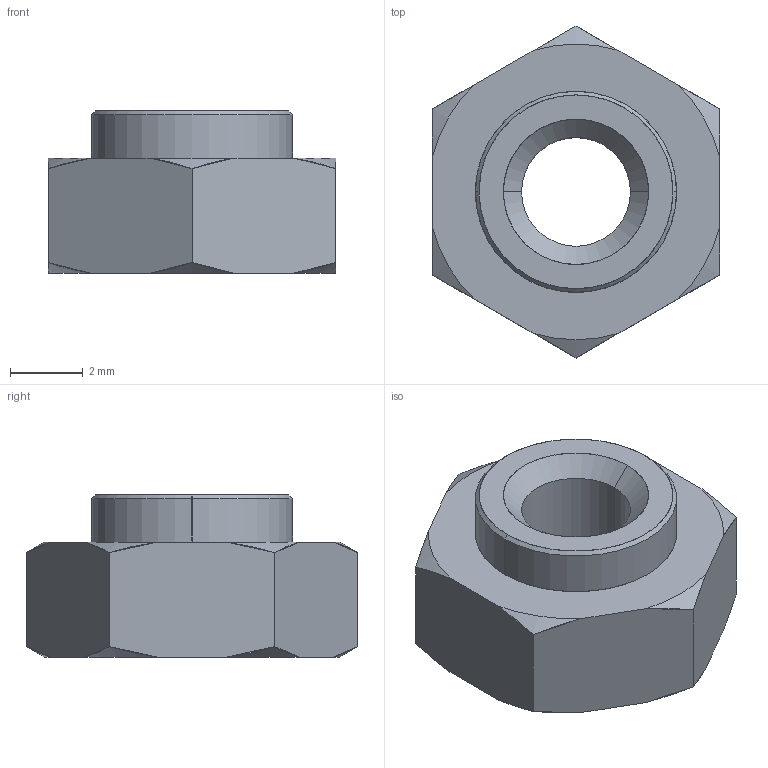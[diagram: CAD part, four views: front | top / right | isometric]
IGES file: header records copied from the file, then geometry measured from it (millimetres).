
Start section: SolidWorks IGES file using analytic representation for surfaces
Global section: file name: C:\Users\liam_\OneDrive\Desktop\Work\Mat Davis Pending 20181125\automotion\P SERIES\P0827.ZP_v2\P0827.ZP_v2_20181231_IGES\P0827.030-22G-ZP.igs; native system: SolidWorks 2017; preprocessor: SolidWorks 2017; author: liam_; date: 181231.110229; units: millimetre
Bounding box: 7.92 x 9.15 x 4.47 mm (x, y, z)
Surface area: 237.2 mm2 (no closed solid volume)
Topology: 0 solids, 0 shells, 31 faces, 336 edges, 336 vertices
Faces by surface type: revolution 22, bspline 9
